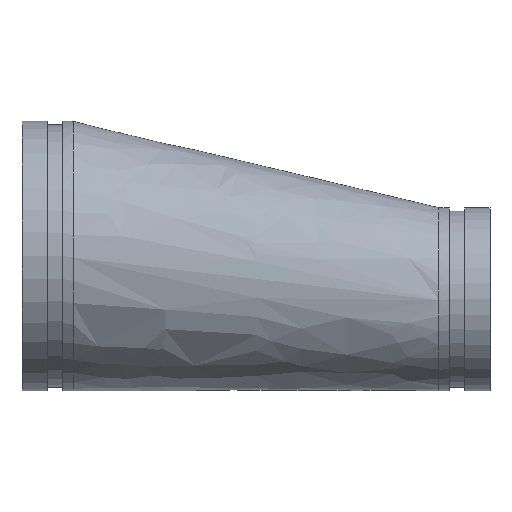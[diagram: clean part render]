
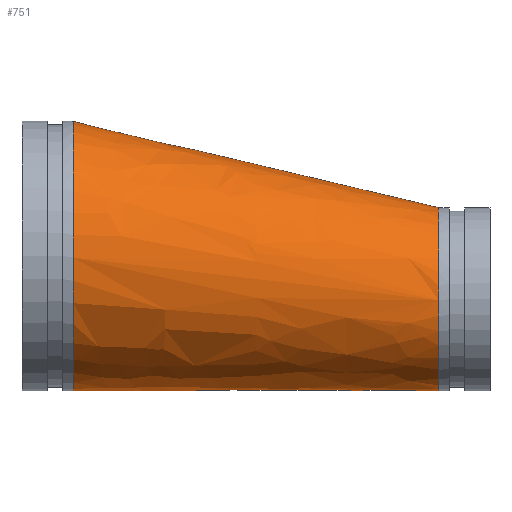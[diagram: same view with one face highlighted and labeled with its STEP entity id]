
A CAD part, top view. The second image highlights one B-rep face of the part: STEP entity #751.
In plain terms, the highlighted free-form (B-spline) face has degree [1, 2] with [2, 9] control points.
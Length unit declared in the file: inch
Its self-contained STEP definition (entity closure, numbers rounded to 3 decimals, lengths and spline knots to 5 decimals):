
#58=B_SPLINE_CURVE_WITH_KNOTS('',1,(#1409,#1410),.UNSPECIFIED.,.F.,.F.,
(2,2),(-2.74946,-0.00159),.UNSPECIFIED.);
#60=(
BOUNDED_SURFACE()
B_SPLINE_SURFACE(1,2,((#1387,#1388,#1389,#1390,#1391,#1392,#1393,#1394,
#1395),(#1396,#1397,#1398,#1399,#1400,#1401,#1402,#1403,#1404)),
 .UNSPECIFIED.,.F.,.T.,.F.)
B_SPLINE_SURFACE_WITH_KNOTS((2,2),(3,2,2,2,3),(-0.11979,2.82765),
(-3.14159,-1.5708,0.,1.5708,3.14159),
 .UNSPECIFIED.)
GEOMETRIC_REPRESENTATION_ITEM()
RATIONAL_B_SPLINE_SURFACE(((1.,0.707,1.,0.707,1.,
0.707,1.,0.707,1.),(1.,0.707,1.,0.707,
1.,0.707,1.,0.707,1.)))
REPRESENTATION_ITEM('')
SURFACE()
);
#128=FACE_OUTER_BOUND('',#160,.T.);
#160=EDGE_LOOP('',(#622,#623,#624,#625,#626,#627,#628));
#247=CIRCLE('',#870,2.25);
#248=CIRCLE('',#871,3.3125);
#249=CIRCLE('',#872,3.3125);
#250=CIRCLE('',#873,2.25);
#251=CIRCLE('',#874,2.25);
#332=VERTEX_POINT('',#1405);
#333=VERTEX_POINT('',#1406);
#334=VERTEX_POINT('',#1408);
#335=VERTEX_POINT('',#1411);
#336=VERTEX_POINT('',#1414);
#436=EDGE_CURVE('',#332,#333,#247,.T.);
#437=EDGE_CURVE('',#333,#334,#58,.T.);
#438=EDGE_CURVE('',#334,#335,#248,.T.);
#439=EDGE_CURVE('',#335,#334,#249,.T.);
#440=EDGE_CURVE('',#333,#336,#250,.T.);
#441=EDGE_CURVE('',#336,#332,#251,.T.);
#622=ORIENTED_EDGE('',*,*,#436,.T.);
#623=ORIENTED_EDGE('',*,*,#437,.T.);
#624=ORIENTED_EDGE('',*,*,#438,.T.);
#625=ORIENTED_EDGE('',*,*,#439,.T.);
#626=ORIENTED_EDGE('',*,*,#437,.F.);
#627=ORIENTED_EDGE('',*,*,#440,.T.);
#628=ORIENTED_EDGE('',*,*,#441,.T.);
#751=ADVANCED_FACE('',(#128),#60,.F.);
#870=AXIS2_PLACEMENT_3D('',#1407,#1104,#1105);
#871=AXIS2_PLACEMENT_3D('',#1412,#1106,#1107);
#872=AXIS2_PLACEMENT_3D('',#1413,#1108,#1109);
#873=AXIS2_PLACEMENT_3D('',#1415,#1110,#1111);
#874=AXIS2_PLACEMENT_3D('',#1416,#1112,#1113);
#1104=DIRECTION('center_axis',(-1.,0.,0.));
#1105=DIRECTION('ref_axis',(0.,-1.,0.));
#1106=DIRECTION('center_axis',(1.,0.,0.));
#1107=DIRECTION('ref_axis',(0.,1.,0.));
#1108=DIRECTION('center_axis',(1.,0.,0.));
#1109=DIRECTION('ref_axis',(0.,1.,0.));
#1110=DIRECTION('center_axis',(-1.,0.,0.));
#1111=DIRECTION('ref_axis',(0.,-1.,0.));
#1112=DIRECTION('center_axis',(-1.,0.,0.));
#1113=DIRECTION('ref_axis',(0.,-1.,0.));
#1387=CARTESIAN_POINT('Ctrl Pts',(0.86332,0.00118,
3.35912));
#1388=CARTESIAN_POINT('Ctrl Pts',(0.47659,-3.3125,3.35912));
#1389=CARTESIAN_POINT('Ctrl Pts',(0.47659,-3.3125,0.));
#1390=CARTESIAN_POINT('Ctrl Pts',(0.47659,-3.3125,-3.35912));
#1391=CARTESIAN_POINT('Ctrl Pts',(0.86332,0.00118,
-3.35912));
#1392=CARTESIAN_POINT('Ctrl Pts',(1.25005,3.31485,-3.35912));
#1393=CARTESIAN_POINT('Ctrl Pts',(1.25005,3.31485,0.));
#1394=CARTESIAN_POINT('Ctrl Pts',(1.25005,3.31485,3.35912));
#1395=CARTESIAN_POINT('Ctrl Pts',(0.86332,0.00118,
3.35912));
#1396=CARTESIAN_POINT('Ctrl Pts',(10.49553,-1.12297,2.21956));
#1397=CARTESIAN_POINT('Ctrl Pts',(10.24,-3.3125,2.21956));
#1398=CARTESIAN_POINT('Ctrl Pts',(10.24,-3.3125,0.));
#1399=CARTESIAN_POINT('Ctrl Pts',(10.24,-3.3125,-2.21956));
#1400=CARTESIAN_POINT('Ctrl Pts',(10.49553,-1.12297,-2.21956));
#1401=CARTESIAN_POINT('Ctrl Pts',(10.75107,1.06656,-2.21956));
#1402=CARTESIAN_POINT('Ctrl Pts',(10.75107,1.06656,0.));
#1403=CARTESIAN_POINT('Ctrl Pts',(10.75107,1.06656,2.21956));
#1404=CARTESIAN_POINT('Ctrl Pts',(10.49553,-1.12297,2.21956));
#1405=CARTESIAN_POINT('',(10.24,-3.3125,0.));
#1406=CARTESIAN_POINT('',(10.24,-1.09315,2.24979));
#1407=CARTESIAN_POINT('Origin',(10.24,-1.0625,0.));
#1408=CARTESIAN_POINT('',(1.26,-0.04512,3.31219));
#1409=CARTESIAN_POINT('Ctrl Pts',(10.24,-1.09315,2.24979));
#1410=CARTESIAN_POINT('Ctrl Pts',(1.26,-0.04512,3.31219));
#1411=CARTESIAN_POINT('',(1.26,-3.3125,0.));
#1412=CARTESIAN_POINT('Origin',(1.26,0.,0.));
#1413=CARTESIAN_POINT('Origin',(1.26,0.,0.));
#1414=CARTESIAN_POINT('',(10.24,1.1875,0.));
#1415=CARTESIAN_POINT('Origin',(10.24,-1.0625,0.));
#1416=CARTESIAN_POINT('Origin',(10.24,-1.0625,0.));
